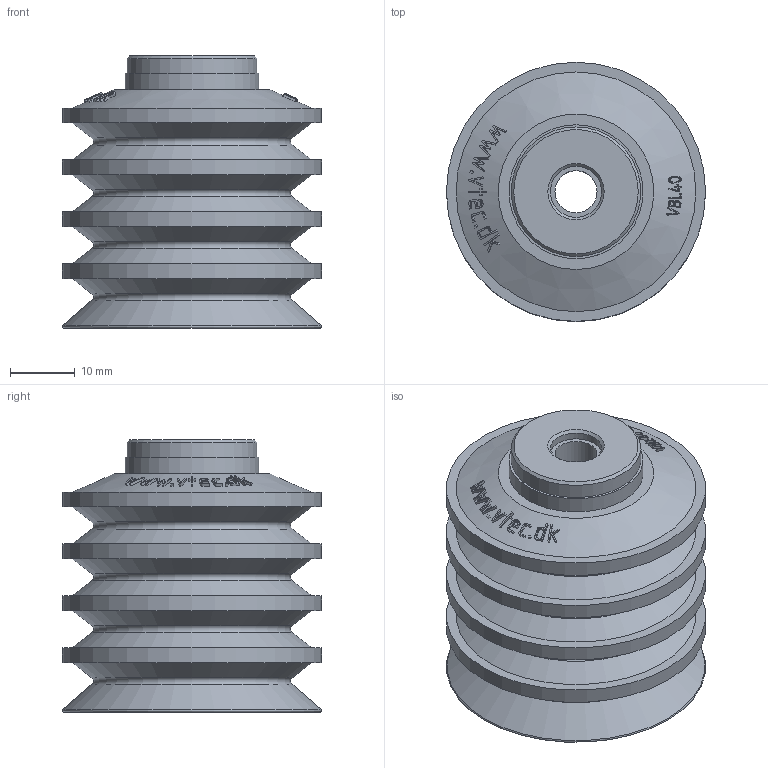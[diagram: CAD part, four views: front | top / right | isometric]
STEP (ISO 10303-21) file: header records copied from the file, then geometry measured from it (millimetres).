
FILE_DESCRIPTION( ( 'STEP AP203' ), '1' );
FILE_NAME( 'C:/撲啗紫賊-02/3D-蘋驍煎斜/Vacuum Pad/VBL series/VBL40.stp', '2006-04-24T11:52:18', ( ' ' ), ( ' ' ), 'XStep 1.0', ' ', ' ' );
FILE_SCHEMA( ( 'CONFIG_CONTROL_DESIGN) ( )' ) );
Length unit declared in the file: metre
Products named in the file (1): 1
Bounding box: 40 x 40 x 42 mm (x, y, z)
Volume: 8388.4 mm3; surface area: 15084.5 mm2
Topology: 1 solids, 1 shells, 208 faces, 500 edges, 327 vertices
Faces by surface type: bspline 138, cone 41, plane 15, cylinder 9, torus 5
Full cylindrical faces by diameter (mm): 6.5 x1, 7.9 x1, 10 x1, 20 x1, 20.679 x1, 40 x4
Entity records: 10341 total; most frequent: CARTESIAN_POINT 6630, ORIENTED_EDGE 922, EDGE_CURVE 461, B_SPLINE_CURVE_WITH_KNOTS 333, VERTEX_POINT 325, DIRECTION 319, EDGE_LOOP 280, FACE_OUTER_BOUND 224
